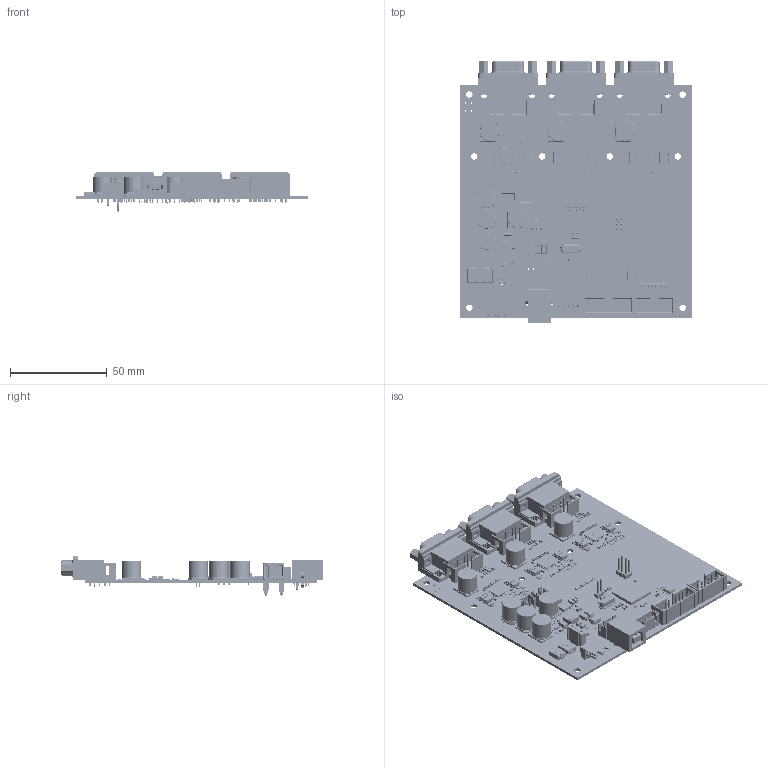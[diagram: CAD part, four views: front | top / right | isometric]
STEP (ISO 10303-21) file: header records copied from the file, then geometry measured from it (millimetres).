
FILE_DESCRIPTION(('Open CASCADE Model'),'2;1');
FILE_NAME('Open CASCADE Shape Model','2020-03-15T18:45:31',('Author'),( 'Open CASCADE'),'Open CASCADE STEP processor 6.8','Open CASCADE 6.8' ,'Unknown');
FILE_SCHEMA(('AUTOMOTIVE_DESIGN { 1 0 10303 214 1 1 1 1 }'));
Length unit declared in the file: millimetre
Products named in the file (333): PCB; Board; Open CASCADE STEP translator 6.8 1.1.1; X8; User_Library-CWF-5; X9; User_Library-CWF-4; RA14_M3; SMD_R1206-4Way-Var2-1; User_Library-Array-1206-4Way-Var2-1_Anschl_X_FCsse_1; User_Library-Array-1206-4Way-Var2-1_K_X_F6rper_1; User_Library-Array-1206-4Way-Var2-1_Deckel_1; User_Library-Array-1206-4Way-Var2-1_Beschriftung_1; C29; 6113632848; Extruded; 6113632448; 6110537472; RA9; VT2; SOT-23_3; VD13; VD12; R15; 6113628208; 6113627968; R14; R13; 6113629248; 6113629008; R12; Q1; HP49US; L2; L_0805HT; DD2; 6113626288; C39; 6113625968; 6113625728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
Assembly tree (774 placements, depth 5):
  PCB
    Board
      Open CASCADE STEP translator 6.8 1.1.1
    X8
      User_Library-CWF-5  x2
      User_Library-CWF-5
      User_Library-CWF-5  x2
      User_Library-CWF-5
    X9
      User_Library-CWF-4
    RA14_M3
      SMD_R1206-4Way-Var2-1
        User_Library-Array-1206-4Way-Var2-1_Anschl_X_FCsse_1
        User_Library-Array-1206-4Way-Var2-1_K_X_F6rper_1
        User_Library-Array-1206-4Way-Var2-1_Deckel_1
        User_Library-Array-1206-4Way-Var2-1_Beschriftung_1
    C29
      6113632848
        Extruded
      6113632448
        Extruded
      6110537472
        Extruded
    RA9
      SMD_R1206-4Way-Var2-1
        User_Library-Array-1206-4Way-Var2-1_Anschl_X_FCsse_1
        User_Library-Array-1206-4Way-Var2-1_K_X_F6rper_1
        User_Library-Array-1206-4Way-Var2-1_Deckel_1
        User_Library-Array-1206-4Way-Var2-1_Beschriftung_1
    VT2
      SOT-23_3
    VD13
      SOT-23_3
    VD12
      SOT-23_3
    R15
      6113628208
        Extruded
      6113627968
        Extruded
    R14
      6113628208
        Extruded
      6113627968
        Extruded
    R13
      6113629248
        Extruded
      6113629008
        Extruded
    R12
      6113628208
        Extruded
      6113627968
        Extruded
    Q1
      HP49US
    L2
      L_0805HT
    DD2
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Bounding box: 120 x 135.04 x 20.68 mm (x, y, z)
Volume: 66564.2 mm3; surface area: 74693.6 mm2
Topology: 566 solids, 578 shells, 20956 faces, 53147 edges, 34068 vertices
Faces by surface type: plane 14017, bspline 3330, cylinder 3017, cone 314, sphere 186, torus 92
Full cylindrical faces by diameter (mm): 0.7 x2, 0.8 x6, 0.9 x26, 1 x108, 1.2 x4, 1.3 x2, 2.3 x2, 3.2 x6, 3.3 x8, 5 x1
Entity records: 200043 total; most frequent: CARTESIAN_POINT 46735, ORIENTED_EDGE 24658, DIRECTION 23105, EDGE_CURVE 12329, LINE 9463, VECTOR 9463, VERTEX_POINT 7908, AXIS2_PLACEMENT_3D 6821
